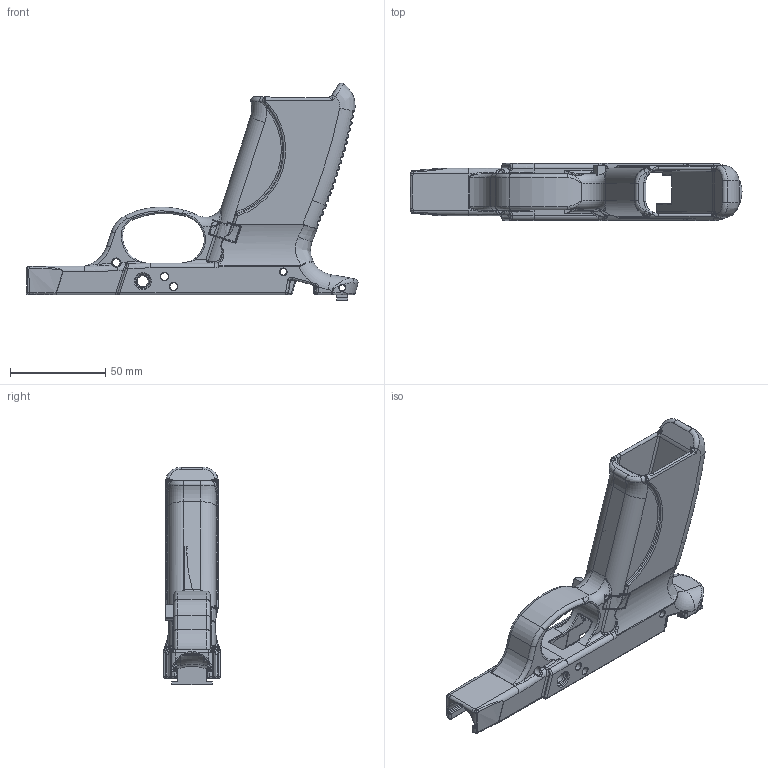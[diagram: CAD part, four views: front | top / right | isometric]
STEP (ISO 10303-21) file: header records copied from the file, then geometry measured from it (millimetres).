
FILE_DESCRIPTION(/* description */ (''),/* implementation_level */ '2;1');
FILE_NAME(/* name */ '/Users/tyler/Desktop/SR9CPackage/STEP/SR9CX.step',/* time_stamp */ '2019-11-17T18:03:33-05:00',/* author */ (''),/* organization */ (''),/* preprocessor_version */ 'ST-DEVELOPER v18',/* originating_system */ 'Autodesk Translation Framework v8.12.0.6',/* authorisation */ '');
FILE_SCHEMA (('AUTOMOTIVE_DESIGN { 1 0 10303 214 3 1 1 }'));
Products named in the file (3): SR9C; Mag Catch SR9; SR9 Rear Rail
Assembly tree (2 placements, depth 2):
  SR9C
    Mag Catch SR9
    SR9 Rear Rail
Bounding box: 174.67 x 30 x 114.42 mm (x, y, z)
Volume: 81767.4 mm3; surface area: 49486.3 mm2
Topology: 3 solids, 3 shells, 1497 faces, 3563 edges, 1975 vertices
Faces by surface type: cylinder 526, bspline 504, plane 200, torus 197, sphere 43, cone 27
Full cylindrical faces by diameter (mm): 3.175 x3, 3.5 x1, 4 x6, 4.36 x1, 5.8 x2, 8 x1
Entity records: 60744 total; most frequent: CARTESIAN_POINT 28670, ORIENTED_EDGE 6966, DIRECTION 6361, EDGE_CURVE 3483, AXIS2_PLACEMENT_3D 2636, VERTEX_POINT 1977, EDGE_LOOP 1518, FACE_OUTER_BOUND 1497
